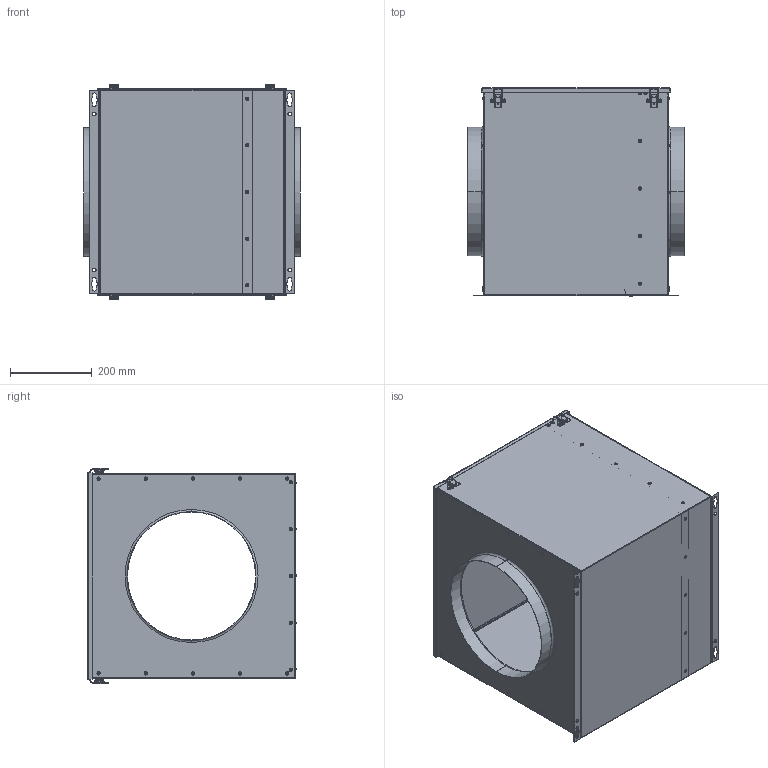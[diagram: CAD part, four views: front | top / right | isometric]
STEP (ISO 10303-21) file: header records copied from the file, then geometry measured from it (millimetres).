
FILE_DESCRIPTION (( 'STEP AP203' ), '1' );
FILE_NAME ('112846-01_FT315_step.step', '2020-08-26T08:40:27', ( '' ), ( '' ), 'SwSTEP 2.0', 'SolidWorks 2017', '' );
FILE_SCHEMA (( 'CONFIG_CONTROL_DESIGN' ));
Length unit declared in the file: millimetre
Products named in the file (1): 112846-01_FT315_step
Bounding box: 530 x 509.3 x 527.59 mm (x, y, z)
Surface area: 2838482.2 mm2 (no closed solid volume)
Topology: 0 solids, 89 shells, 692 faces, 2339 edges, 1636 vertices
Faces by surface type: cylinder 322, plane 162, torus 124, bspline 84
Entity records: 27460 total; most frequent: CARTESIAN_POINT 6524, DIRECTION 4891, ORIENTED_EDGE 3600, EDGE_CURVE 2339, AXIS2_PLACEMENT_3D 2003, VERTEX_POINT 1636, CIRCLE 1394, EDGE_LOOP 893
